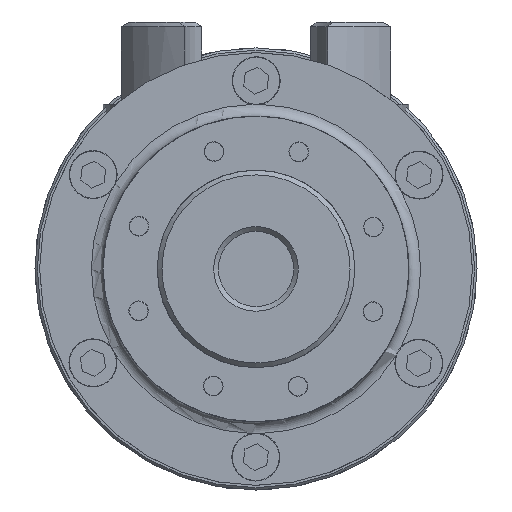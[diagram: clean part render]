
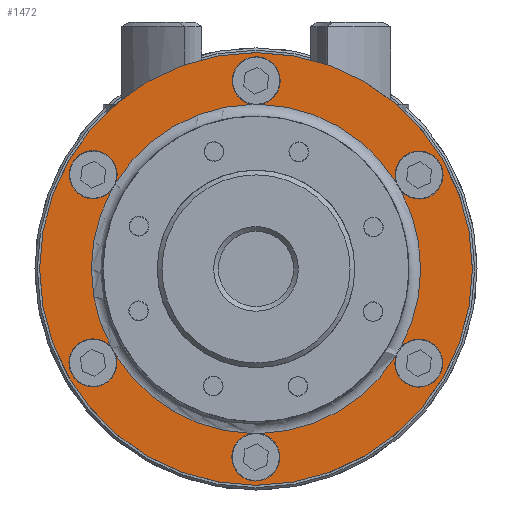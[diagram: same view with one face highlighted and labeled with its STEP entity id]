
A CAD part, left-side view. The second image highlights one B-rep face of the part: STEP entity #1472.
In plain terms, the highlighted planar face has unit normal (-1, 0, 0).
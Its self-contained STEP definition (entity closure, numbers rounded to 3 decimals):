
#1472 = ADVANCED_FACE( '', ( #2852, #2853 ), #2854, .F. );
#2852 = FACE_OUTER_BOUND( '', #4203, .T. );
#2853 = FACE_BOUND( '', #4204, .T. );
#2854 = PLANE( '', #4205 );
#4203 = EDGE_LOOP( '', ( #6113 ) );
#4204 = EDGE_LOOP( '', ( #6114, #6115, #6116, #6117, #6118, #6119, #6120, #6121, #6122, #6123, #6124, #6125 ) );
#4205 = AXIS2_PLACEMENT_3D( '', #6126, #6127, #6128 );
#6113 = ORIENTED_EDGE( '', *, *, #8703, .T. );
#6114 = ORIENTED_EDGE( '', *, *, #8692, .T. );
#6115 = ORIENTED_EDGE( '', *, *, #8704, .T. );
#6116 = ORIENTED_EDGE( '', *, *, #8700, .T. );
#6117 = ORIENTED_EDGE( '', *, *, #8705, .T. );
#6118 = ORIENTED_EDGE( '', *, *, #8698, .T. );
#6119 = ORIENTED_EDGE( '', *, *, #8706, .T. );
#6120 = ORIENTED_EDGE( '', *, *, #8697, .T. );
#6121 = ORIENTED_EDGE( '', *, *, #8688, .T. );
#6122 = ORIENTED_EDGE( '', *, *, #8695, .T. );
#6123 = ORIENTED_EDGE( '', *, *, #8707, .T. );
#6124 = ORIENTED_EDGE( '', *, *, #8693, .T. );
#6125 = ORIENTED_EDGE( '', *, *, #8708, .T. );
#6126 = CARTESIAN_POINT( '', ( -22., 46., 0. ) );
#6127 = DIRECTION( '', ( 1., 0., 0. ) );
#6128 = DIRECTION( '', ( 0., 1., 0. ) );
#8688 = EDGE_CURVE( '', #9878, #9877, #9880, .T. );
#8692 = EDGE_CURVE( '', #9861, #9764, #9887, .T. );
#8693 = EDGE_CURVE( '', #9888, #9862, #9889, .T. );
#8695 = EDGE_CURVE( '', #9877, #9890, #9892, .T. );
#8697 = EDGE_CURVE( '', #9883, #9878, #9894, .T. );
#8698 = EDGE_CURVE( '', #9895, #9884, #9896, .T. );
#8700 = EDGE_CURVE( '', #9763, #9897, #9899, .T. );
#8703 = EDGE_CURVE( '', #9904, #9904, #9905, .F. );
#8704 = EDGE_CURVE( '', #9764, #9763, #9906, .T. );
#8705 = EDGE_CURVE( '', #9897, #9895, #9907, .T. );
#8706 = EDGE_CURVE( '', #9884, #9883, #9908, .T. );
#8707 = EDGE_CURVE( '', #9890, #9888, #9909, .T. );
#8708 = EDGE_CURVE( '', #9862, #9861, #9910, .T. );
#9763 = VERTEX_POINT( '', #11259 );
#9764 = VERTEX_POINT( '', #11260 );
#9861 = VERTEX_POINT( '', #11385 );
#9862 = VERTEX_POINT( '', #11386 );
#9877 = VERTEX_POINT( '', #11401 );
#9878 = VERTEX_POINT( '', #11402 );
#9880 = CIRCLE( '', #11404, 5.1 );
#9883 = VERTEX_POINT( '', #11407 );
#9884 = VERTEX_POINT( '', #11408 );
#9887 = CIRCLE( '', #11411, 35. );
#9888 = VERTEX_POINT( '', #11412 );
#9889 = CIRCLE( '', #11413, 35. );
#9890 = VERTEX_POINT( '', #11414 );
#9892 = CIRCLE( '', #11416, 35. );
#9894 = CIRCLE( '', #11418, 35. );
#9895 = VERTEX_POINT( '', #11419 );
#9896 = CIRCLE( '', #11420, 35. );
#9897 = VERTEX_POINT( '', #11421 );
#9899 = CIRCLE( '', #11423, 35. );
#9904 = VERTEX_POINT( '', #11428 );
#9905 = CIRCLE( '', #11429, 46. );
#9906 = CIRCLE( '', #11430, 5.1 );
#9907 = CIRCLE( '', #11431, 5.1 );
#9908 = CIRCLE( '', #11432, 5.1 );
#9909 = CIRCLE( '', #11433, 5.1 );
#9910 = CIRCLE( '', #11434, 5.1 );
#11259 = CARTESIAN_POINT( '', ( -22., 29.83, 18.308 ) );
#11260 = CARTESIAN_POINT( '', ( -22., 30.77, 16.68 ) );
#11385 = CARTESIAN_POINT( '', ( -22., 30.77, -16.68 ) );
#11386 = CARTESIAN_POINT( '', ( -22., 29.83, -18.308 ) );
#11401 = CARTESIAN_POINT( '', ( -22., -29.83, -18.308 ) );
#11402 = CARTESIAN_POINT( '', ( -22., -30.77, -16.68 ) );
#11404 = AXIS2_PLACEMENT_3D( '', #13044, #13045, #13046 );
#11407 = CARTESIAN_POINT( '', ( -22., -30.77, 16.68 ) );
#11408 = CARTESIAN_POINT( '', ( -22., -29.83, 18.308 ) );
#11411 = AXIS2_PLACEMENT_3D( '', #13056, #13057, #13058 );
#11412 = CARTESIAN_POINT( '', ( -22., 0.94, -34.987 ) );
#11413 = AXIS2_PLACEMENT_3D( '', #13059, #13060, #13061 );
#11414 = CARTESIAN_POINT( '', ( -22., -0.94, -34.987 ) );
#11416 = AXIS2_PLACEMENT_3D( '', #13065, #13066, #13067 );
#11418 = AXIS2_PLACEMENT_3D( '', #13071, #13072, #13073 );
#11419 = CARTESIAN_POINT( '', ( -22., -0.94, 34.987 ) );
#11420 = AXIS2_PLACEMENT_3D( '', #13074, #13075, #13076 );
#11421 = CARTESIAN_POINT( '', ( -22., 0.94, 34.987 ) );
#11423 = AXIS2_PLACEMENT_3D( '', #13080, #13081, #13082 );
#11428 = CARTESIAN_POINT( '', ( -22., 0., -46. ) );
#11429 = AXIS2_PLACEMENT_3D( '', #13089, #13090, #13091 );
#11430 = AXIS2_PLACEMENT_3D( '', #13092, #13093, #13094 );
#11431 = AXIS2_PLACEMENT_3D( '', #13095, #13096, #13097 );
#11432 = AXIS2_PLACEMENT_3D( '', #13098, #13099, #13100 );
#11433 = AXIS2_PLACEMENT_3D( '', #13101, #13102, #13103 );
#11434 = AXIS2_PLACEMENT_3D( '', #13104, #13105, #13106 );
#13044 = CARTESIAN_POINT( '', ( -22., -34.641, -20. ) );
#13045 = DIRECTION( '', ( 1., 0., 0. ) );
#13046 = DIRECTION( '', ( 0., 0., -1. ) );
#13056 = CARTESIAN_POINT( '', ( -22., 0., 0. ) );
#13057 = DIRECTION( '', ( 1., 0., 0. ) );
#13058 = DIRECTION( '', ( 0., 0., -1. ) );
#13059 = CARTESIAN_POINT( '', ( -22., 0., 0. ) );
#13060 = DIRECTION( '', ( 1., 0., 0. ) );
#13061 = DIRECTION( '', ( 0., 0., -1. ) );
#13065 = CARTESIAN_POINT( '', ( -22., 0., 0. ) );
#13066 = DIRECTION( '', ( 1., 0., 0. ) );
#13067 = DIRECTION( '', ( 0., 0., -1. ) );
#13071 = CARTESIAN_POINT( '', ( -22., 0., 0. ) );
#13072 = DIRECTION( '', ( 1., 0., 0. ) );
#13073 = DIRECTION( '', ( 0., 0., -1. ) );
#13074 = CARTESIAN_POINT( '', ( -22., 0., 0. ) );
#13075 = DIRECTION( '', ( 1., 0., 0. ) );
#13076 = DIRECTION( '', ( 0., 0., -1. ) );
#13080 = CARTESIAN_POINT( '', ( -22., 0., 0. ) );
#13081 = DIRECTION( '', ( 1., 0., 0. ) );
#13082 = DIRECTION( '', ( 0., 0., -1. ) );
#13089 = CARTESIAN_POINT( '', ( -22., 0., 0. ) );
#13090 = DIRECTION( '', ( 1., 0., 0. ) );
#13091 = DIRECTION( '', ( 0., 0., -1. ) );
#13092 = CARTESIAN_POINT( '', ( -22., 34.641, 20. ) );
#13093 = DIRECTION( '', ( 1., 0., 0. ) );
#13094 = DIRECTION( '', ( 0., 0., -1. ) );
#13095 = CARTESIAN_POINT( '', ( -22., 0., 40. ) );
#13096 = DIRECTION( '', ( 1., 0., 0. ) );
#13097 = DIRECTION( '', ( 0., 0., -1. ) );
#13098 = CARTESIAN_POINT( '', ( -22., -34.641, 20. ) );
#13099 = DIRECTION( '', ( 1., 0., 0. ) );
#13100 = DIRECTION( '', ( 0., 0., -1. ) );
#13101 = CARTESIAN_POINT( '', ( -22., 0., -40. ) );
#13102 = DIRECTION( '', ( 1., 0., 0. ) );
#13103 = DIRECTION( '', ( 0., 0., -1. ) );
#13104 = CARTESIAN_POINT( '', ( -22., 34.641, -20. ) );
#13105 = DIRECTION( '', ( 1., 0., 0. ) );
#13106 = DIRECTION( '', ( 0., 0., -1. ) );
